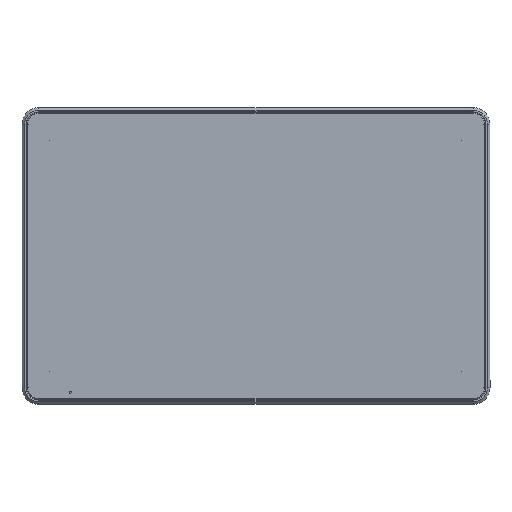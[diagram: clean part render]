
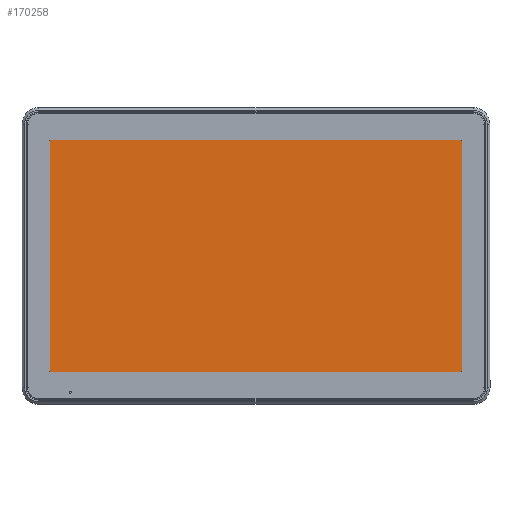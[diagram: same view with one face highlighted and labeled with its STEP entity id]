
A CAD part, top view. The second image highlights one B-rep face of the part: STEP entity #170258.
In plain terms, the highlighted planar face has unit normal (0, 0, 1).
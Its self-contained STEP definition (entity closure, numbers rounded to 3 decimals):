
#12056=PLANE('',#178998);
#20779=LINE('',#264813,#38017);
#20782=LINE('',#264819,#38020);
#20785=LINE('',#264825,#38023);
#20788=LINE('',#264829,#38026);
#38017=VECTOR('',#199483,10.);
#38020=VECTOR('',#199488,10.);
#38023=VECTOR('',#199493,10.);
#38026=VECTOR('',#199498,10.);
#55221=FACE_OUTER_BOUND('',#64109,.T.);
#64109=EDGE_LOOP('',(#134329,#134330,#134331,#134332));
#82637=VERTEX_POINT('',#264810);
#82638=VERTEX_POINT('',#264812);
#82640=VERTEX_POINT('',#264818);
#82642=VERTEX_POINT('',#264824);
#101799=EDGE_CURVE('',#82638,#82637,#20779,.T.);
#101802=EDGE_CURVE('',#82640,#82638,#20782,.T.);
#101805=EDGE_CURVE('',#82642,#82640,#20785,.T.);
#101808=EDGE_CURVE('',#82637,#82642,#20788,.T.);
#134329=ORIENTED_EDGE('',*,*,#101799,.T.);
#134330=ORIENTED_EDGE('',*,*,#101808,.T.);
#134331=ORIENTED_EDGE('',*,*,#101805,.T.);
#134332=ORIENTED_EDGE('',*,*,#101802,.T.);
#170258=ADVANCED_FACE('',(#55221),#12056,.T.);
#178998=AXIS2_PLACEMENT_3D('',#264894,#199568,#199569);
#199483=DIRECTION('',(1.,0.,0.));
#199488=DIRECTION('',(0.,-1.,0.));
#199493=DIRECTION('',(-1.,0.,0.));
#199498=DIRECTION('',(0.,1.,0.));
#199568=DIRECTION('center_axis',(0.,0.,
1.));
#199569=DIRECTION('ref_axis',(-1.,0.,0.));
#264810=CARTESIAN_POINT('',(204.6,-115.9,2.998));
#264812=CARTESIAN_POINT('',(-205.6,-115.9,2.998));
#264813=CARTESIAN_POINT('',(-0.375,-115.9,2.998));
#264818=CARTESIAN_POINT('',(-205.6,114.9,2.998));
#264819=CARTESIAN_POINT('',(-205.6,-58.25,2.998));
#264824=CARTESIAN_POINT('',(204.6,114.9,2.998));
#264825=CARTESIAN_POINT('',(-102.925,114.9,2.998));
#264829=CARTESIAN_POINT('',(204.6,-0.55,2.998));
#264894=CARTESIAN_POINT('Origin',(-0.25,-0.6,
2.998));
